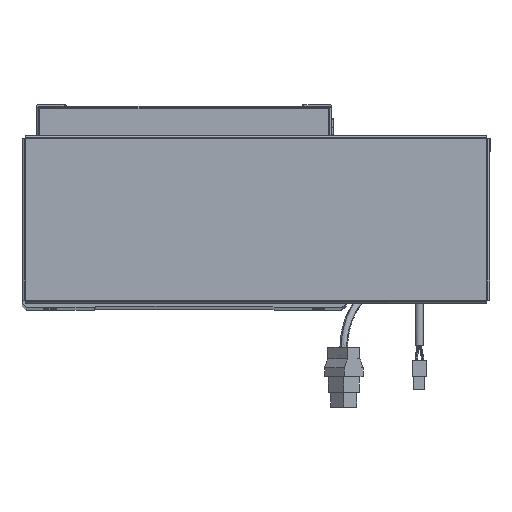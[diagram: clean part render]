
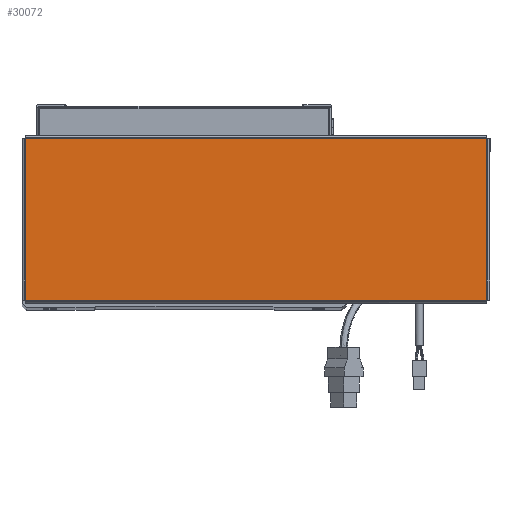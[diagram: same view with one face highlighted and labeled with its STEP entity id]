
A CAD part, top view. The second image highlights one B-rep face of the part: STEP entity #30072.
In plain terms, the highlighted planar face has unit normal (0, 0, 1).
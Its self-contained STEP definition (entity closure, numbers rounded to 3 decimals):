
#26 = ORIENTED_EDGE ( 'NONE', *, *, #11705, .T. ) ;
#2127 = VECTOR ( 'NONE', #39074, 1000. ) ;
#2232 = VERTEX_POINT ( 'NONE', #25570 ) ;
#2494 = FACE_OUTER_BOUND ( 'NONE', #11835, .T. ) ;
#5186 = VECTOR ( 'NONE', #54314, 1000. ) ;
#5414 = CARTESIAN_POINT ( 'NONE',  ( 0., 0., 0. ) ) ;
#9009 = CARTESIAN_POINT ( 'NONE',  ( 156.513, -54.793, 0. ) ) ;
#9374 = VERTEX_POINT ( 'NONE', #62818 ) ;
#11705 = EDGE_CURVE ( 'NONE', #2232, #21673, #15607, .T. ) ;
#11835 = EDGE_LOOP ( 'NONE', ( #53931, #12156, #17917, #26 ) ) ;
#12156 = ORIENTED_EDGE ( 'NONE', *, *, #17070, .T. ) ;
#12272 = CARTESIAN_POINT ( 'NONE',  ( 156.513, 54.763, 0. ) ) ;
#15607 = LINE ( 'NONE', #38501, #5186 ) ;
#17070 = EDGE_CURVE ( 'NONE', #9374, #19304, #40580, .T. ) ;
#17917 = ORIENTED_EDGE ( 'NONE', *, *, #43436, .T. ) ;
#18845 = DIRECTION ( 'NONE',  ( 0., 1., 0. ) ) ;
#19304 = VERTEX_POINT ( 'NONE', #12272 ) ;
#20831 = DIRECTION ( 'NONE',  ( 1., 0., 0. ) ) ;
#20898 = VECTOR ( 'NONE', #48934, 1000. ) ;
#21503 = PLANE ( 'NONE',  #48444 ) ;
#21673 = VERTEX_POINT ( 'NONE', #30707 ) ;
#23691 = LINE ( 'NONE', #27741, #2127 ) ;
#25570 = CARTESIAN_POINT ( 'NONE',  ( -156.513, 54.763, 0. ) ) ;
#27741 = CARTESIAN_POINT ( 'NONE',  ( -156.543, -54.763, 0. ) ) ;
#30072 = ADVANCED_FACE ( 'NONE', ( #2494 ), #21503, .T. ) ;
#30707 = CARTESIAN_POINT ( 'NONE',  ( -156.513, -54.763, 0. ) ) ;
#34210 = VECTOR ( 'NONE', #18845, 1000. ) ;
#38501 = CARTESIAN_POINT ( 'NONE',  ( -156.513, 54.793, 0. ) ) ;
#39074 = DIRECTION ( 'NONE',  ( 1., 0., 0. ) ) ;
#39162 = LINE ( 'NONE', #64140, #20898 ) ;
#40580 = LINE ( 'NONE', #9009, #34210 ) ;
#43436 = EDGE_CURVE ( 'NONE', #19304, #2232, #39162, .T. ) ;
#48444 = AXIS2_PLACEMENT_3D ( 'NONE', #5414, #51757, #20831 ) ;
#48934 = DIRECTION ( 'NONE',  ( -1., 0., 0. ) ) ;
#51757 = DIRECTION ( 'NONE',  ( 0., 0., 1. ) ) ;
#53931 = ORIENTED_EDGE ( 'NONE', *, *, #57300, .T. ) ;
#54314 = DIRECTION ( 'NONE',  ( 0., -1., 0. ) ) ;
#57300 = EDGE_CURVE ( 'NONE', #21673, #9374, #23691, .T. ) ;
#62818 = CARTESIAN_POINT ( 'NONE',  ( 156.513, -54.763, 0. ) ) ;
#64140 = CARTESIAN_POINT ( 'NONE',  ( 156.543, 54.763, 0. ) ) ;
